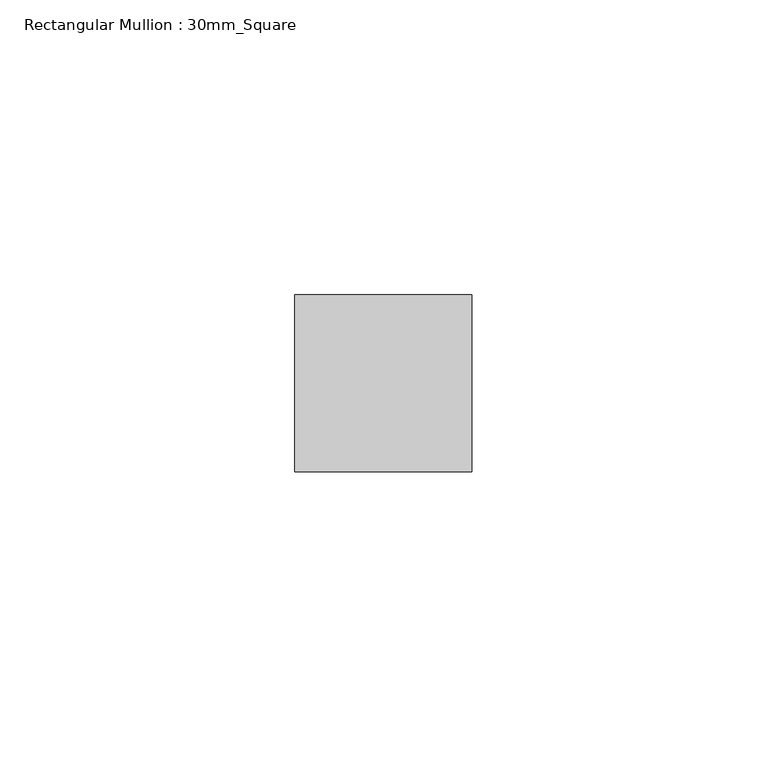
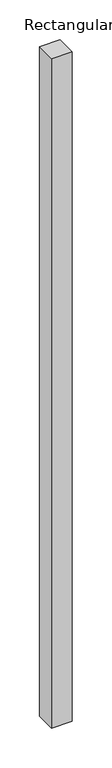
"""IFC4 building model written with IfcOpenShell, lengths in millimetres: member geometry, Rectangular Mullion : 30mm_Square."""

from ifc_helpers import new_model, si_unit, frame, origin, place, context, project, spatial, polyline, outline, extrude, source, transform, mapped, element, save


def rectangular_mullion_30mm_square_fbd93f8d(model_context):
    return source(origin(), model_context, "Body", "SweptSolid", [
        extrude(outline(polyline([(0.0, 2.5), (0.0, -27.5), (-30.0, -27.5), (-30.0, 2.5), (0.0, 2.5)])), frame((0.0, 0.0, -1027.1428574), z_axis=(0.0, 0.0, 1.0), x_axis=(1.0, 0.0, 0.0)), (0.0, 0.0, 1.0), 1027.1428574),
    ])


if __name__ == "__main__":
    model = new_model("IFC4")
    model_context = context("Model", 3, world=origin())
    ifc_project = project(units=[si_unit("LENGTHUNIT", "METRE", prefix="MILLI")], contexts=[model_context])
    site = spatial("IfcSite", under=ifc_project)
    building = spatial("IfcBuilding", under=site)
    placement = place(None, origin())
    rectangular_mullion_30mm_square_shape = rectangular_mullion_30mm_square_fbd93f8d(model_context)
    element("IfcMember", 1, ObjectType="Rectangular Mullion : 30mm_Square", at=placement, inside=building, context=model_context, shape_type="MappedRepresentation", body=[
        mapped(rectangular_mullion_30mm_square_shape, transform((0.0, 0.0, 0.0), x_axis=(1.0, 0.0, 0.0), y_axis=(0.0, 1.0, 0.0), z_axis=(0.0, 0.0, 1.0))),
    ])
    save(model, "model.ifc")
